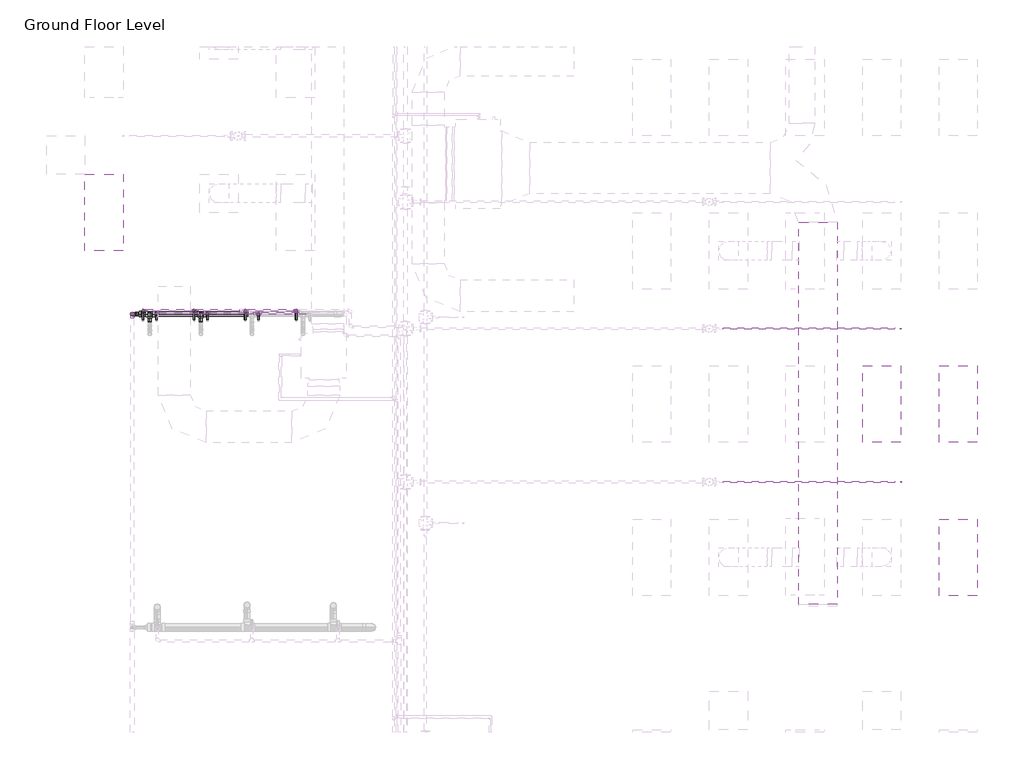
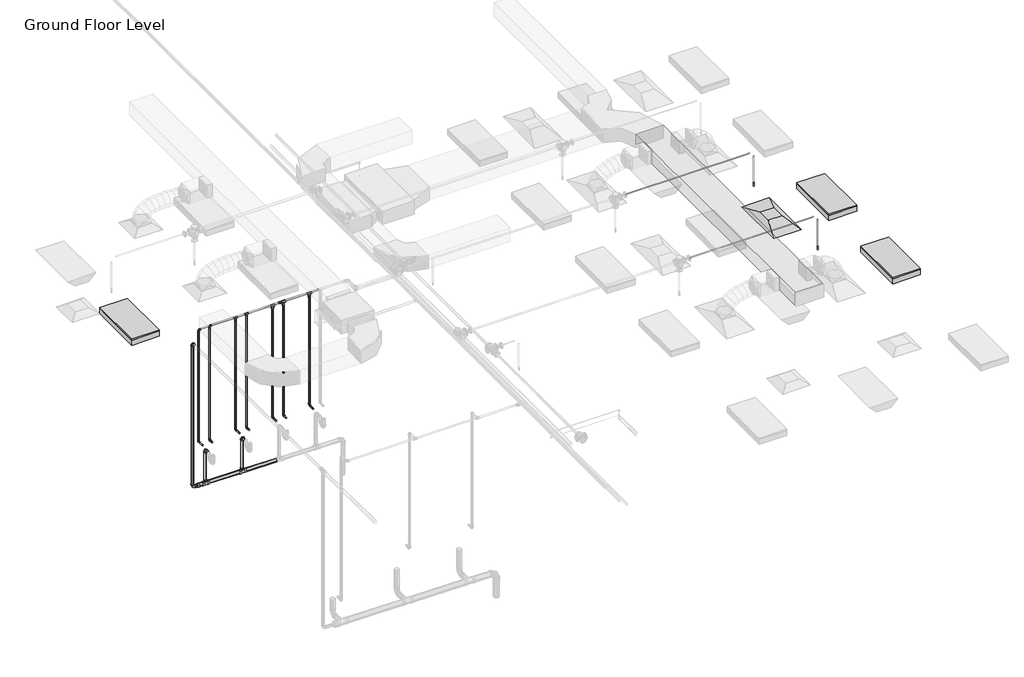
# One storey, part 24 of 75: 33 pipe segments, 25 pipe fittings, 3 light fixtures, 2 fire suppression terminals, 1 air terminal, 1 duct segment.
"""IFC4 building model written with IfcOpenShell, lengths in millimetres."""

from ifc_helpers import new_model, si_unit, point, frame, frame_2d, origin, place, context, project, spatial, polyline, circle_curve, trimmed, segment, composite_curve, outline, extrude, transform, mapped, element, save
from components import m_return_diffuser_1200x600_1200_x_600_face_300_x_300_d1983ef6, m_sprinkler_dry_pendent_hosted_15_mm_dry_pendent_9bda8e11, m_troffer_light_parabolic_rectangular1_0600x1200mm_4_lamp_86473d4a, m_bend_pvc_sch_40_dwv_standard_1e7bdcc1, m_bend_pvc_sch_40_dwv_standard_b3f66ba9, m_bend_pvc_sch_40_dwv_standard_8255d195, m_reducer_pvc_sch_40_dwv_standard_391ccf0e, m_tee_reducing_sanitary_pvc_sch_40_dwv_standard_21d2848c, standard_b266ab3f, standard_72b35c3b, standard_e954f56a, standard_636910a4

model = new_model("IFC4")

# Units and contexts
model_context = context("Model", 3, world=origin())
ifc_project = project(units=[si_unit("LENGTHUNIT", "METRE", prefix="MILLI")], contexts=[model_context])

# Site, building, storey
site = spatial("IfcSite", under=ifc_project)
building = spatial("IfcBuilding", under=site)
storey = spatial("IfcBuildingStorey", under=building, Name="Ground Floor Level", Elevation=900.0)

# Air terminal
placement = place(None, origin())
m_return_diffuser_1200x600_1200_x_600_face_300_x_300_shape = m_return_diffuser_1200x600_1200_x_600_face_300_x_300_d1983ef6(model_context)
element("IfcAirTerminal", 1, ObjectType="M_Return Diffuser 1200x600 : 1200 x 600 Face 300 x 300 Connection", at=placement, inside=storey, context=model_context, shape_type="MappedRepresentation", body=[
    mapped(m_return_diffuser_1200x600_1200_x_600_face_300_x_300_shape, transform((13143.0482736, -25264.7846466, 3650.0), x_axis=(0.0, 1.0, 0.0), y_axis=(-1.0, 0.0, 0.0), z_axis=(0.0, 0.0, 1.0))),
])

# Duct segment
element("IfcDuctSegment", 2, ObjectType="Radius Elbows / Taps", at=placement, inside=storey, context=model_context, shape_type="SweptSolid", body=[
    extrude(outline(polyline([(12447.7826463, -28403.2846466), (11847.7826463, -28403.2846466), (11847.7826463, -22416.5689179), (12447.7826463, -22416.5689179), (12447.7826463, -28403.2846466)])), frame((0.0, 0.0, 4000.0002153), z_axis=(0.0, 0.0, 1.0), x_axis=(1.0, 0.0, 0.0)), (0.0, 0.0, 1.0), 300.0),
])

# Fire suppression terminals
m_sprinkler_dry_pendent_hosted_15_mm_dry_pendent_shape = m_sprinkler_dry_pendent_hosted_15_mm_dry_pendent_9bda8e11(model_context)
element("IfcFireSuppressionTerminal", 3, ObjectType="M_Sprinkler - Dry - Pendent - Hosted : 15 mm Dry Pendent", at=placement, inside=storey, context=model_context, shape_type="MappedRepresentation", body=[
    mapped(m_sprinkler_dry_pendent_hosted_15_mm_dry_pendent_shape, transform((13443.0482736, -24083.6779349, 3650.0), x_axis=(1.0, 0.0, 0.0), y_axis=(0.0, -1.0, 0.0), z_axis=(0.0, 0.0, -1.0))),
])
element("IfcFireSuppressionTerminal", 4, ObjectType="M_Sprinkler - Dry - Pendent - Hosted : 15 mm Dry Pendent", at=placement, inside=storey, context=model_context, shape_type="MappedRepresentation", body=[
    mapped(m_sprinkler_dry_pendent_hosted_15_mm_dry_pendent_shape, transform((13443.0482736, -26484.6295433, 3650.0), x_axis=(1.0, 0.0, 0.0), y_axis=(0.0, -1.0, 0.0), z_axis=(0.0, 0.0, -1.0))),
])

# Light fixtures
m_troffer_light_parabolic_rectangular1_0600x1200mm_4_lamp_shape = m_troffer_light_parabolic_rectangular1_0600x1200mm_4_lamp_86473d4a(model_context)
element("IfcLightFixture", 5, ObjectType="M_Troffer Light - Parabolic Rectangular1 : 0600x1200mm(4 Lamp) - 277V 2", at=placement, inside=storey, context=model_context, shape_type="MappedRepresentation", body=[
    mapped(m_troffer_light_parabolic_rectangular1_0600x1200mm_4_lamp_shape, transform((903.3013074, -22246.081145, 3650.0), x_axis=(0.0, 1.0, 0.0), y_axis=(-1.0, 0.0, 0.0), z_axis=(0.0, 0.0, 1.0))),
])
element("IfcLightFixture", 6, ObjectType="M_Troffer Light - Parabolic Rectangular1 : 0600x1200mm(4 Lamp) - 277V 2", at=placement, inside=storey, context=model_context, shape_type="MappedRepresentation", body=[
    mapped(m_troffer_light_parabolic_rectangular1_0600x1200mm_4_lamp_shape, transform((14283.5823415, -25246.081145, 3650.0), x_axis=(0.0, 1.0, 0.0), y_axis=(-1.0, 0.0, 0.0), z_axis=(0.0, 0.0, 1.0))),
])
element("IfcLightFixture", 7, ObjectType="M_Troffer Light - Parabolic Rectangular1 : 0600x1200mm(4 Lamp) - 277V 2", at=placement, inside=storey, context=model_context, shape_type="MappedRepresentation", body=[
    mapped(m_troffer_light_parabolic_rectangular1_0600x1200mm_4_lamp_shape, transform((14283.5823415, -27646.081145, 3650.0), x_axis=(0.0, 1.0, 0.0), y_axis=(-1.0, 0.0, 0.0), z_axis=(0.0, 0.0, 1.0))),
])

# Pipe fittings
m_bend_pvc_sch_40_dwv_standard_shape = m_bend_pvc_sch_40_dwv_standard_1e7bdcc1(model_context)
element("IfcPipeFitting", 8, ObjectType="M_Bend - PVC - Sch 40 - DWV : Standard", at=placement, inside=storey, context=model_context, shape_type="MappedRepresentation", body=[
    mapped(m_bend_pvc_sch_40_dwv_standard_shape, transform((2479.14976, -23854.2948449, 1508.2594199), x_axis=(0.0, 0.9999500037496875, -0.00999950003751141), y_axis=(0.0, -0.00999950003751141, -0.9999500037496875), z_axis=(-1.0, 0.0, 0.0))),
])
element("IfcPipeFitting", 9, ObjectType="M_Bend - PVC - Sch 40 - DWV : Standard", at=placement, inside=storey, context=model_context, shape_type="MappedRepresentation", body=[
    mapped(m_bend_pvc_sch_40_dwv_standard_shape, transform((1404.8669708, -23854.2948449, 739.8083289), x_axis=(-0.9999500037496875, 0.0, 0.009999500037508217), y_axis=(0.009999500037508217, 0.0, 0.9999500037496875), z_axis=(0.0, 1.0, 0.0))),
])
m_bend_pvc_sch_40_dwv_standard_2_shape = m_bend_pvc_sch_40_dwv_standard_b3f66ba9(model_context)
element("IfcPipeFitting", 10, ObjectType="M_Bend - PVC - Sch 40 - DWV : Standard", at=placement, inside=storey, context=model_context, shape_type="MappedRepresentation", body=[
    mapped(m_bend_pvc_sch_40_dwv_standard_2_shape, transform((1679.14976, -23854.2948449, 1508.2594199), x_axis=(0.0, 0.9999578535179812, -0.009181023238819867), y_axis=(0.0, -0.009181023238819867, -0.9999578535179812), z_axis=(-1.0, 0.0, 0.0))),
])
m_bend_pvc_sch_40_dwv_standard_3_shape = m_bend_pvc_sch_40_dwv_standard_8255d195(model_context)
element("IfcPipeFitting", 11, ObjectType="M_Bend - PVC - Sch 40 - DWV : Standard", at=placement, inside=storey, context=model_context, shape_type="MappedRepresentation", body=[
    mapped(m_bend_pvc_sch_40_dwv_standard_3_shape, transform((1404.8829692, -23854.3136394, 4037.9287036), x_axis=(0.0, 0.0, 1.0), y_axis=(0.0, -1.0, 0.0), z_axis=(1.0, 0.0, 0.0))),
])
m_reducer_pvc_sch_40_dwv_standard_shape = m_reducer_pvc_sch_40_dwv_standard_391ccf0e(model_context)
element("IfcPipeFitting", 12, ObjectType="M_Reducer - PVC - Sch 40 - DWV : Standard", at=placement, inside=storey, context=model_context, shape_type="MappedRepresentation", body=[
    mapped(m_reducer_pvc_sch_40_dwv_standard_shape, transform((1477.4242491, -23854.2948449, 739.0827561), x_axis=(0.9999500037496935, 0.0, -0.00999950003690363), y_axis=(0.0, 1.0, 0.0), z_axis=(0.00999950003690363, 0.0, 0.9999500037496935))),
])
m_tee_reducing_sanitary_pvc_sch_40_dwv_standard_shape = m_tee_reducing_sanitary_pvc_sch_40_dwv_standard_21d2848c(model_context)
element("IfcPipeFitting", 13, ObjectType="M_Tee Reducing Sanitary - PVC - Sch 40 - DWV : Standard", at=placement, inside=storey, context=model_context, shape_type="MappedRepresentation", body=[
    mapped(m_tee_reducing_sanitary_pvc_sch_40_dwv_standard_shape, transform((1679.3782372, -23854.2948449, 737.0632162), x_axis=(-0.9999500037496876, 0.0, 0.009999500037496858), y_axis=(-0.009999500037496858, 0.0, -0.9999500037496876), z_axis=(0.0, -1.0, 0.0))),
])
element("IfcPipeFitting", 14, ObjectType="M_Tee Reducing Sanitary - PVC - Sch 40 - DWV : Standard", at=placement, inside=storey, context=model_context, shape_type="MappedRepresentation", body=[
    mapped(m_tee_reducing_sanitary_pvc_sch_40_dwv_standard_shape, transform((2479.3782372, -23854.2948449, 729.0632162), x_axis=(-0.9999500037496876, 0.0, 0.009999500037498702), y_axis=(-0.009999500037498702, 0.0, -0.9999500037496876), z_axis=(0.0, -1.0, 0.0))),
])
standard_shape = standard_b266ab3f(model_context)
element("IfcPipeFitting", 15, ObjectType="M_Elbow - CPVC - Sch 40 : Standard", at=placement, inside=storey, context=model_context, shape_type="MappedRepresentation", body=[
    mapped(standard_shape, transform((1783.0647206, -23844.7846466, 1690.0), x_axis=(0.0, 0.0, -1.0), y_axis=(0.0, -1.0, 0.0), z_axis=(-1.0, 0.0, 0.0))),
])
element("IfcPipeFitting", 16, ObjectType="M_Elbow - CPVC - Sch 40 : Standard", at=placement, inside=storey, context=model_context, shape_type="MappedRepresentation", body=[
    mapped(standard_shape, transform((2583.0647206, -23844.7846466, 1690.0), x_axis=(0.0, 0.0, -1.0), y_axis=(0.0, -1.0, 0.0), z_axis=(-1.0, 0.0, 0.0))),
])
element("IfcPipeFitting", 17, ObjectType="M_Elbow - CPVC - Sch 40 : Standard", at=placement, inside=storey, context=model_context, shape_type="MappedRepresentation", body=[
    mapped(standard_shape, transform((3383.0647206, -23844.7846466, 1690.0), x_axis=(0.0, 0.0, -1.0), y_axis=(0.0, -1.0, 0.0), z_axis=(-1.0, 0.0, 0.0))),
])
element("IfcPipeFitting", 18, ObjectType="M_Elbow - CPVC - Sch 40 : Standard", at=placement, inside=storey, context=model_context, shape_type="MappedRepresentation", body=[
    mapped(standard_shape, transform((1783.0647206, -23844.7846466, 4300.0), x_axis=(-1.0, 0.0, 0.0), y_axis=(0.0, 0.0, -1.0), z_axis=(0.0, -1.0, 0.0))),
])
element("IfcPipeFitting", 19, ObjectType="M_Elbow - CPVC - Sch 40 : Standard", at=placement, inside=storey, context=model_context, shape_type="MappedRepresentation", body=[
    mapped(standard_shape, transform((1574.4348794, -23794.921633, 1690.0), x_axis=(0.0, 1.0, 0.0), y_axis=(0.0, 0.0, 1.0), z_axis=(1.0, 0.0, 0.0))),
])
element("IfcPipeFitting", 20, ObjectType="M_Elbow - CPVC - Sch 40 : Standard", at=placement, inside=storey, context=model_context, shape_type="MappedRepresentation", body=[
    mapped(standard_shape, transform((1574.4348794, -23794.921633, 4250.0), x_axis=(0.0, 0.0, 1.0), y_axis=(1.0, 0.0, 0.0), z_axis=(0.0, 1.0, 0.0))),
])
element("IfcPipeFitting", 21, ObjectType="M_Elbow - CPVC - Sch 40 : Standard", at=placement, inside=storey, context=model_context, shape_type="MappedRepresentation", body=[
    mapped(standard_shape, transform((2374.4348794, -23794.921633, 1690.0), x_axis=(0.0, 1.0, 0.0), y_axis=(0.0, 0.0, 1.0), z_axis=(1.0, 0.0, 0.0))),
])
element("IfcPipeFitting", 22, ObjectType="M_Elbow - CPVC - Sch 40 : Standard", at=placement, inside=storey, context=model_context, shape_type="MappedRepresentation", body=[
    mapped(standard_shape, transform((3174.4348794, -23794.921633, 1690.0), x_axis=(0.0, 1.0, 0.0), y_axis=(0.0, 0.0, 1.0), z_axis=(1.0, 0.0, 0.0))),
])
element("IfcPipeFitting", 23, ObjectType="M_Elbow - CPVC - Sch 40 : Standard", at=placement, inside=storey, context=model_context, shape_type="MappedRepresentation", body=[
    mapped(standard_shape, transform((3974.4348794, -23794.921633, 1690.0), x_axis=(0.0, 1.0, 0.0), y_axis=(0.0, 0.0, 1.0), z_axis=(1.0, 0.0, 0.0))),
])
standard_2_shape = standard_72b35c3b(model_context)
element("IfcPipeFitting", 24, ObjectType="M_Tee - CPVC - Sch 40 : Standard", at=placement, inside=storey, context=model_context, shape_type="MappedRepresentation", body=[
    mapped(standard_2_shape, transform((3383.0647206, -23844.7846466, 4300.0), x_axis=(1.0, 0.0, 0.0), y_axis=(0.0, 0.0, 1.0), z_axis=(0.0, -1.0, 0.0))),
])
element("IfcPipeFitting", 25, ObjectType="M_Tee - CPVC - Sch 40 : Standard", at=placement, inside=storey, context=model_context, shape_type="MappedRepresentation", body=[
    mapped(standard_2_shape, transform((3174.4348794, -23794.921633, 4250.0), x_axis=(-1.0, 0.0, 0.0), y_axis=(0.0, 0.0, 1.0), z_axis=(0.0, 1.0, 0.0))),
])
element("IfcPipeFitting", 26, ObjectType="M_Tee - CPVC - Sch 40 : Standard", at=placement, inside=storey, context=model_context, shape_type="MappedRepresentation", body=[
    mapped(standard_2_shape, transform((3974.4348794, -23794.921633, 4250.0), x_axis=(-1.0, 0.0, 0.0), y_axis=(0.0, 0.0, 1.0), z_axis=(0.0, 1.0, 0.0))),
])
standard_3_shape = standard_e954f56a(model_context)
element("IfcPipeFitting", 27, ObjectType="M_Coupling Reducing - CPVC - Sch 40 : Standard", at=placement, inside=storey, context=model_context, shape_type="MappedRepresentation", body=[
    mapped(standard_3_shape, transform((3343.3645206, -23844.7846466, 4300.0), x_axis=(-1.0, 0.0, 0.0), y_axis=(0.0, -1.0, 0.0), z_axis=(0.0, 0.0, 1.0))),
])
element("IfcPipeFitting", 28, ObjectType="M_Coupling Reducing - CPVC - Sch 40 : Standard", at=placement, inside=storey, context=model_context, shape_type="MappedRepresentation", body=[
    mapped(standard_3_shape, transform((3383.0647206, -23844.7846466, 4260.2998), x_axis=(0.0, 0.0, -1.0), y_axis=(1.0, 0.0, 0.0), z_axis=(0.0, -1.0, 0.0))),
])
element("IfcPipeFitting", 29, ObjectType="M_Coupling Reducing - CPVC - Sch 40 : Standard", at=placement, inside=storey, context=model_context, shape_type="MappedRepresentation", body=[
    mapped(standard_3_shape, transform((3174.4348794, -23794.921633, 4210.2998), x_axis=(0.0, 0.0, -1.0), y_axis=(-1.0, 0.0, 0.0), z_axis=(0.0, 1.0, 0.0))),
])
element("IfcPipeFitting", 30, ObjectType="M_Coupling Reducing - CPVC - Sch 40 : Standard", at=placement, inside=storey, context=model_context, shape_type="MappedRepresentation", body=[
    mapped(standard_3_shape, transform((3974.4348794, -23794.921633, 4210.2998), x_axis=(0.0, 0.0, -1.0), y_axis=(-1.0, 0.0, 0.0), z_axis=(0.0, 1.0, 0.0))),
])
standard_4_shape = standard_636910a4(model_context)
element("IfcPipeFitting", 31, ObjectType="M_Tee - CPVC - Sch 40 : Standard", at=placement, inside=storey, context=model_context, shape_type="MappedRepresentation", body=[
    mapped(standard_4_shape, transform((2583.0647206, -23844.7846466, 4300.0), x_axis=(1.0, 0.0, 0.0), y_axis=(0.0, 0.0, 1.0), z_axis=(0.0, -1.0, 0.0))),
])
element("IfcPipeFitting", 32, ObjectType="M_Tee - CPVC - Sch 40 : Standard", at=placement, inside=storey, context=model_context, shape_type="MappedRepresentation", body=[
    mapped(standard_4_shape, transform((2374.4348794, -23794.921633, 4250.0), x_axis=(-1.0, 0.0, 0.0), y_axis=(0.0, 0.0, 1.0), z_axis=(0.0, 1.0, 0.0))),
])

# Pipe segments
element("IfcPipeSegment", 33, ObjectType="CPVC", at=placement, inside=storey, context=model_context, shape_type="SweptSolid", body=[
    extrude(outline(composite_curve([segment(trimmed(circle_curve(frame_2d((1690.0, 3383.0647206)), 13.335), [point((1690.0, 3396.3997206))], [point((1703.335, 3383.0647206))], False, "CARTESIAN"), True, "CONTINUOUS"), segment(trimmed(circle_curve(frame_2d((1690.0, 3383.0647206)), 13.335), [point((1703.335, 3383.0647206))], [point((1690.0, 3369.7297206))], False, "CARTESIAN"), True, "CONTINUOUS"), segment(trimmed(circle_curve(frame_2d((1690.0, 3383.0647206)), 13.335), [point((1690.0, 3369.7297206))], [point((1676.665, 3383.0647206))], False, "CARTESIAN"), True, "CONTINUOUS"), segment(trimmed(circle_curve(frame_2d((1690.0, 3383.0647206)), 13.335), [point((1676.665, 3383.0647206))], [point((1690.0, 3396.3997206))], False, "CARTESIAN"), True, "CONTINUOUS")], self_intersect=False)), frame((0.0, -23944.7846466, 0.0), z_axis=(0.0, 1.0, 0.0), x_axis=(0.0, 0.0, 1.0)), (0.0, 0.0, 1.0), 64.67495),
])
element("IfcPipeSegment", 34, ObjectType="CPVC", at=placement, inside=storey, context=model_context, shape_type="SweptSolid", body=[
    extrude(outline(composite_curve([segment(trimmed(circle_curve(frame_2d((1690.0, 2583.0647206)), 13.335), [point((1690.0, 2596.3997206))], [point((1703.335, 2583.0647206))], False, "CARTESIAN"), True, "CONTINUOUS"), segment(trimmed(circle_curve(frame_2d((1690.0, 2583.0647206)), 13.335), [point((1703.335, 2583.0647206))], [point((1690.0, 2569.7297206))], False, "CARTESIAN"), True, "CONTINUOUS"), segment(trimmed(circle_curve(frame_2d((1690.0, 2583.0647206)), 13.335), [point((1690.0, 2569.7297206))], [point((1676.665, 2583.0647206))], False, "CARTESIAN"), True, "CONTINUOUS"), segment(trimmed(circle_curve(frame_2d((1690.0, 2583.0647206)), 13.335), [point((1676.665, 2583.0647206))], [point((1690.0, 2596.3997206))], False, "CARTESIAN"), True, "CONTINUOUS")], self_intersect=False)), frame((0.0, -23944.7846466, 0.0), z_axis=(0.0, 1.0, 0.0), x_axis=(0.0, 0.0, 1.0)), (0.0, 0.0, 1.0), 64.67495),
])
element("IfcPipeSegment", 35, ObjectType="CPVC", at=placement, inside=storey, context=model_context, shape_type="SweptSolid", body=[
    extrude(outline(composite_curve([segment(trimmed(circle_curve(frame_2d((1690.0, 1783.0647206)), 13.335), [point((1690.0, 1796.3997206))], [point((1703.335, 1783.0647206))], False, "CARTESIAN"), True, "CONTINUOUS"), segment(trimmed(circle_curve(frame_2d((1690.0, 1783.0647206)), 13.335), [point((1703.335, 1783.0647206))], [point((1690.0, 1769.7297206))], False, "CARTESIAN"), True, "CONTINUOUS"), segment(trimmed(circle_curve(frame_2d((1690.0, 1783.0647206)), 13.335), [point((1690.0, 1769.7297206))], [point((1676.665, 1783.0647206))], False, "CARTESIAN"), True, "CONTINUOUS"), segment(trimmed(circle_curve(frame_2d((1690.0, 1783.0647206)), 13.335), [point((1676.665, 1783.0647206))], [point((1690.0, 1796.3997206))], False, "CARTESIAN"), True, "CONTINUOUS")], self_intersect=False)), frame((0.0, -23944.7846466, 0.0), z_axis=(0.0, 1.0, 0.0), x_axis=(0.0, 0.0, 1.0)), (0.0, 0.0, 1.0), 64.67495),
])
element("IfcPipeSegment", 36, ObjectType="CPVC", at=placement, inside=storey, context=model_context, shape_type="SweptSolid", body=[
    extrude(outline(composite_curve([segment(trimmed(circle_curve(frame_2d((1783.0647206, -23844.7846466)), 13.335), [point((1796.3997206, -23844.7846466))], [point((1783.0647206, -23858.1196466))], False, "CARTESIAN"), True, "CONTINUOUS"), segment(trimmed(circle_curve(frame_2d((1783.0647206, -23844.7846466)), 13.335), [point((1783.0647206, -23858.1196466))], [point((1769.7297206, -23844.7846466))], False, "CARTESIAN"), True, "CONTINUOUS"), segment(trimmed(circle_curve(frame_2d((1783.0647206, -23844.7846466)), 13.335), [point((1769.7297206, -23844.7846466))], [point((1783.0647206, -23831.4496466))], False, "CARTESIAN"), True, "CONTINUOUS"), segment(trimmed(circle_curve(frame_2d((1783.0647206, -23844.7846466)), 13.335), [point((1783.0647206, -23831.4496466))], [point((1796.3997206, -23844.7846466))], False, "CARTESIAN"), True, "CONTINUOUS")], self_intersect=False)), frame((0.0, 0.0, 1725.32505), z_axis=(0.0, 0.0, 1.0), x_axis=(1.0, 0.0, 0.0)), (0.0, 0.0, 1.0), 2539.3499),
])
element("IfcPipeSegment", 37, ObjectType="CPVC", at=placement, inside=storey, context=model_context, shape_type="SweptSolid", body=[
    extrude(outline(composite_curve([segment(trimmed(circle_curve(frame_2d((-23844.7846466, 4300.0)), 13.335), [point((-23831.4496466, 4300.0))], [point((-23844.7846466, 4286.665))], False, "CARTESIAN"), True, "CONTINUOUS"), segment(trimmed(circle_curve(frame_2d((-23844.7846466, 4300.0)), 13.335), [point((-23844.7846466, 4286.665))], [point((-23858.1196466, 4300.0))], False, "CARTESIAN"), True, "CONTINUOUS"), segment(trimmed(circle_curve(frame_2d((-23844.7846466, 4300.0)), 13.335), [point((-23858.1196466, 4300.0))], [point((-23844.7846466, 4313.335))], False, "CARTESIAN"), True, "CONTINUOUS"), segment(trimmed(circle_curve(frame_2d((-23844.7846466, 4300.0)), 13.335), [point((-23844.7846466, 4313.335))], [point((-23831.4496466, 4300.0))], False, "CARTESIAN"), True, "CONTINUOUS")], self_intersect=False)), frame((1818.3897706, 0.0, 0.0), z_axis=(1.0, 0.0, 0.0), x_axis=(0.0, 1.0, 0.0)), (0.0, 0.0, 1.0), 732.13755),
])
element("IfcPipeSegment", 38, ObjectType="CPVC", at=placement, inside=storey, context=model_context, shape_type="SweptSolid", body=[
    extrude(outline(composite_curve([segment(trimmed(circle_curve(frame_2d((2583.0647206, -23844.7846466)), 13.335), [point((2596.3997206, -23844.7846466))], [point((2583.0647206, -23858.1196466))], False, "CARTESIAN"), True, "CONTINUOUS"), segment(trimmed(circle_curve(frame_2d((2583.0647206, -23844.7846466)), 13.335), [point((2583.0647206, -23858.1196466))], [point((2569.7297206, -23844.7846466))], False, "CARTESIAN"), True, "CONTINUOUS"), segment(trimmed(circle_curve(frame_2d((2583.0647206, -23844.7846466)), 13.335), [point((2569.7297206, -23844.7846466))], [point((2583.0647206, -23831.4496466))], False, "CARTESIAN"), True, "CONTINUOUS"), segment(trimmed(circle_curve(frame_2d((2583.0647206, -23844.7846466)), 13.335), [point((2583.0647206, -23831.4496466))], [point((2596.3997206, -23844.7846466))], False, "CARTESIAN"), True, "CONTINUOUS")], self_intersect=False)), frame((0.0, 0.0, 1725.32505), z_axis=(0.0, 0.0, 1.0), x_axis=(1.0, 0.0, 0.0)), (0.0, 0.0, 1.0), 2542.13755),
])
element("IfcPipeSegment", 39, ObjectType="CPVC", at=placement, inside=storey, context=model_context, shape_type="SweptSolid", body=[
    extrude(outline(composite_curve([segment(trimmed(circle_curve(frame_2d((-23844.7846466, 4300.0)), 13.335), [point((-23831.4496466, 4300.0))], [point((-23844.7846466, 4286.665))], False, "CARTESIAN"), True, "CONTINUOUS"), segment(trimmed(circle_curve(frame_2d((-23844.7846466, 4300.0)), 13.335), [point((-23844.7846466, 4286.665))], [point((-23858.1196466, 4300.0))], False, "CARTESIAN"), True, "CONTINUOUS"), segment(trimmed(circle_curve(frame_2d((-23844.7846466, 4300.0)), 13.335), [point((-23858.1196466, 4300.0))], [point((-23844.7846466, 4313.335))], False, "CARTESIAN"), True, "CONTINUOUS"), segment(trimmed(circle_curve(frame_2d((-23844.7846466, 4300.0)), 13.335), [point((-23844.7846466, 4313.335))], [point((-23831.4496466, 4300.0))], False, "CARTESIAN"), True, "CONTINUOUS")], self_intersect=False)), frame((2615.6021206, 0.0, 0.0), z_axis=(1.0, 0.0, 0.0), x_axis=(0.0, 1.0, 0.0)), (0.0, 0.0, 1.0), 670.6124),
])
element("IfcPipeSegment", 40, ObjectType="CPVC", at=placement, inside=storey, context=model_context, shape_type="SweptSolid", body=[
    extrude(outline(composite_curve([segment(trimmed(circle_curve(frame_2d((3383.0647206, -23844.7846466)), 13.335), [point((3396.3997206, -23844.7846466))], [point((3383.0647206, -23858.1196466))], False, "CARTESIAN"), True, "CONTINUOUS"), segment(trimmed(circle_curve(frame_2d((3383.0647206, -23844.7846466)), 13.335), [point((3383.0647206, -23858.1196466))], [point((3369.7297206, -23844.7846466))], False, "CARTESIAN"), True, "CONTINUOUS"), segment(trimmed(circle_curve(frame_2d((3383.0647206, -23844.7846466)), 13.335), [point((3369.7297206, -23844.7846466))], [point((3383.0647206, -23831.4496466))], False, "CARTESIAN"), True, "CONTINUOUS"), segment(trimmed(circle_curve(frame_2d((3383.0647206, -23844.7846466)), 13.335), [point((3383.0647206, -23831.4496466))], [point((3396.3997206, -23844.7846466))], False, "CARTESIAN"), True, "CONTINUOUS")], self_intersect=False)), frame((0.0, 0.0, 1725.32505), z_axis=(0.0, 0.0, 1.0), x_axis=(1.0, 0.0, 0.0)), (0.0, 0.0, 1.0), 2477.82475),
])
element("IfcPipeSegment", 41, ObjectType="CPVC", at=placement, inside=storey, context=model_context, shape_type="SweptSolid", body=[
    extrude(outline(composite_curve([segment(trimmed(circle_curve(frame_2d((-23844.7846466, 4300.0)), 16.7005), [point((-23828.0841466, 4300.0))], [point((-23844.7846466, 4283.2995))], False, "CARTESIAN"), True, "CONTINUOUS"), segment(trimmed(circle_curve(frame_2d((-23844.7846466, 4300.0)), 16.7005), [point((-23844.7846466, 4283.2995))], [point((-23861.4851466, 4300.0))], False, "CARTESIAN"), True, "CONTINUOUS"), segment(trimmed(circle_curve(frame_2d((-23844.7846466, 4300.0)), 16.7005), [point((-23861.4851466, 4300.0))], [point((-23844.7846466, 4316.7005))], False, "CARTESIAN"), True, "CONTINUOUS"), segment(trimmed(circle_curve(frame_2d((-23844.7846466, 4300.0)), 16.7005), [point((-23844.7846466, 4316.7005))], [point((-23828.0841466, 4300.0))], False, "CARTESIAN"), True, "CONTINUOUS")], self_intersect=False)), frame((3422.7649206, 0.0, 0.0), z_axis=(1.0, 0.0, 0.0), x_axis=(0.0, 1.0, 0.0)), (0.0, 0.0, 1.0), 720.5996),
])
element("IfcPipeSegment", 42, ObjectType="CPVC", at=placement, inside=storey, context=model_context, shape_type="SweptSolid", body=[
    extrude(outline(composite_curve([segment(trimmed(circle_curve(frame_2d((1690.0, 1574.4348794)), 13.335), [point((1690.0, 1587.7698794))], [point((1703.335, 1574.4348794))], False, "CARTESIAN"), True, "CONTINUOUS"), segment(trimmed(circle_curve(frame_2d((1690.0, 1574.4348794)), 13.335), [point((1703.335, 1574.4348794))], [point((1690.0, 1561.0998794))], False, "CARTESIAN"), True, "CONTINUOUS"), segment(trimmed(circle_curve(frame_2d((1690.0, 1574.4348794)), 13.335), [point((1690.0, 1561.0998794))], [point((1676.665, 1574.4348794))], False, "CARTESIAN"), True, "CONTINUOUS"), segment(trimmed(circle_curve(frame_2d((1690.0, 1574.4348794)), 13.335), [point((1676.665, 1574.4348794))], [point((1690.0, 1587.7698794))], False, "CARTESIAN"), True, "CONTINUOUS")], self_intersect=False)), frame((0.0, -23944.7846466, 0.0), z_axis=(0.0, 1.0, 0.0), x_axis=(0.0, 0.0, 1.0)), (0.0, 0.0, 1.0), 114.5379636),
])
element("IfcPipeSegment", 43, ObjectType="CPVC", at=placement, inside=storey, context=model_context, shape_type="SweptSolid", body=[
    extrude(outline(composite_curve([segment(trimmed(circle_curve(frame_2d((1574.4348794, -23794.921633)), 13.335), [point((1561.0998794, -23794.921633))], [point((1574.4348794, -23781.586633))], False, "CARTESIAN"), True, "CONTINUOUS"), segment(trimmed(circle_curve(frame_2d((1574.4348794, -23794.921633)), 13.335), [point((1574.4348794, -23781.586633))], [point((1587.7698794, -23794.921633))], False, "CARTESIAN"), True, "CONTINUOUS"), segment(trimmed(circle_curve(frame_2d((1574.4348794, -23794.921633)), 13.335), [point((1587.7698794, -23794.921633))], [point((1574.4348794, -23808.256633))], False, "CARTESIAN"), True, "CONTINUOUS"), segment(trimmed(circle_curve(frame_2d((1574.4348794, -23794.921633)), 13.335), [point((1574.4348794, -23808.256633))], [point((1561.0998794, -23794.921633))], False, "CARTESIAN"), True, "CONTINUOUS")], self_intersect=False)), frame((0.0, 0.0, 1725.32505), z_axis=(0.0, 0.0, 1.0), x_axis=(1.0, 0.0, 0.0)), (0.0, 0.0, 1.0), 2489.3499),
])
element("IfcPipeSegment", 44, ObjectType="CPVC", at=placement, inside=storey, context=model_context, shape_type="SweptSolid", body=[
    extrude(outline(composite_curve([segment(trimmed(circle_curve(frame_2d((1690.0, 2374.4348794)), 13.335), [point((1690.0, 2387.7698794))], [point((1703.335, 2374.4348794))], False, "CARTESIAN"), True, "CONTINUOUS"), segment(trimmed(circle_curve(frame_2d((1690.0, 2374.4348794)), 13.335), [point((1703.335, 2374.4348794))], [point((1690.0, 2361.0998794))], False, "CARTESIAN"), True, "CONTINUOUS"), segment(trimmed(circle_curve(frame_2d((1690.0, 2374.4348794)), 13.335), [point((1690.0, 2361.0998794))], [point((1676.665, 2374.4348794))], False, "CARTESIAN"), True, "CONTINUOUS"), segment(trimmed(circle_curve(frame_2d((1690.0, 2374.4348794)), 13.335), [point((1676.665, 2374.4348794))], [point((1690.0, 2387.7698794))], False, "CARTESIAN"), True, "CONTINUOUS")], self_intersect=False)), frame((0.0, -23944.7846466, 0.0), z_axis=(0.0, 1.0, 0.0), x_axis=(0.0, 0.0, 1.0)), (0.0, 0.0, 1.0), 114.5379636),
])
element("IfcPipeSegment", 45, ObjectType="CPVC", at=placement, inside=storey, context=model_context, shape_type="SweptSolid", body=[
    extrude(outline(composite_curve([segment(trimmed(circle_curve(frame_2d((2374.4348794, -23794.921633)), 13.335), [point((2361.0998794, -23794.921633))], [point((2374.4348794, -23781.586633))], False, "CARTESIAN"), True, "CONTINUOUS"), segment(trimmed(circle_curve(frame_2d((2374.4348794, -23794.921633)), 13.335), [point((2374.4348794, -23781.586633))], [point((2387.7698794, -23794.921633))], False, "CARTESIAN"), True, "CONTINUOUS"), segment(trimmed(circle_curve(frame_2d((2374.4348794, -23794.921633)), 13.335), [point((2387.7698794, -23794.921633))], [point((2374.4348794, -23808.256633))], False, "CARTESIAN"), True, "CONTINUOUS"), segment(trimmed(circle_curve(frame_2d((2374.4348794, -23794.921633)), 13.335), [point((2374.4348794, -23808.256633))], [point((2361.0998794, -23794.921633))], False, "CARTESIAN"), True, "CONTINUOUS")], self_intersect=False)), frame((0.0, 0.0, 1725.32505), z_axis=(0.0, 0.0, 1.0), x_axis=(1.0, 0.0, 0.0)), (0.0, 0.0, 1.0), 2492.13755),
])
element("IfcPipeSegment", 46, ObjectType="CPVC", at=placement, inside=storey, context=model_context, shape_type="SweptSolid", body=[
    extrude(outline(composite_curve([segment(trimmed(circle_curve(frame_2d((-23794.921633, 4250.0)), 13.335), [point((-23808.256633, 4250.0))], [point((-23794.921633, 4263.335))], False, "CARTESIAN"), True, "CONTINUOUS"), segment(trimmed(circle_curve(frame_2d((-23794.921633, 4250.0)), 13.335), [point((-23794.921633, 4263.335))], [point((-23781.586633, 4250.0))], False, "CARTESIAN"), True, "CONTINUOUS"), segment(trimmed(circle_curve(frame_2d((-23794.921633, 4250.0)), 13.335), [point((-23781.586633, 4250.0))], [point((-23794.921633, 4236.665))], False, "CARTESIAN"), True, "CONTINUOUS"), segment(trimmed(circle_curve(frame_2d((-23794.921633, 4250.0)), 13.335), [point((-23794.921633, 4236.665))], [point((-23808.256633, 4250.0))], False, "CARTESIAN"), True, "CONTINUOUS")], self_intersect=False)), frame((1609.7599294, 0.0, 0.0), z_axis=(1.0, 0.0, 0.0), x_axis=(0.0, 1.0, 0.0)), (0.0, 0.0, 1.0), 732.13755),
])
element("IfcPipeSegment", 47, ObjectType="CPVC", at=placement, inside=storey, context=model_context, shape_type="SweptSolid", body=[
    extrude(outline(composite_curve([segment(trimmed(circle_curve(frame_2d((1690.0, 3174.4348794)), 13.335), [point((1690.0, 3187.7698794))], [point((1703.335, 3174.4348794))], False, "CARTESIAN"), True, "CONTINUOUS"), segment(trimmed(circle_curve(frame_2d((1690.0, 3174.4348794)), 13.335), [point((1703.335, 3174.4348794))], [point((1690.0, 3161.0998794))], False, "CARTESIAN"), True, "CONTINUOUS"), segment(trimmed(circle_curve(frame_2d((1690.0, 3174.4348794)), 13.335), [point((1690.0, 3161.0998794))], [point((1676.665, 3174.4348794))], False, "CARTESIAN"), True, "CONTINUOUS"), segment(trimmed(circle_curve(frame_2d((1690.0, 3174.4348794)), 13.335), [point((1676.665, 3174.4348794))], [point((1690.0, 3187.7698794))], False, "CARTESIAN"), True, "CONTINUOUS")], self_intersect=False)), frame((0.0, -23944.7846466, 0.0), z_axis=(0.0, 1.0, 0.0), x_axis=(0.0, 0.0, 1.0)), (0.0, 0.0, 1.0), 114.5379636),
])
element("IfcPipeSegment", 48, ObjectType="CPVC", at=placement, inside=storey, context=model_context, shape_type="SweptSolid", body=[
    extrude(outline(composite_curve([segment(trimmed(circle_curve(frame_2d((3174.4348794, -23794.921633)), 13.335), [point((3161.0998794, -23794.921633))], [point((3174.4348794, -23781.586633))], False, "CARTESIAN"), True, "CONTINUOUS"), segment(trimmed(circle_curve(frame_2d((3174.4348794, -23794.921633)), 13.335), [point((3174.4348794, -23781.586633))], [point((3187.7698794, -23794.921633))], False, "CARTESIAN"), True, "CONTINUOUS"), segment(trimmed(circle_curve(frame_2d((3174.4348794, -23794.921633)), 13.335), [point((3187.7698794, -23794.921633))], [point((3174.4348794, -23808.256633))], False, "CARTESIAN"), True, "CONTINUOUS"), segment(trimmed(circle_curve(frame_2d((3174.4348794, -23794.921633)), 13.335), [point((3174.4348794, -23808.256633))], [point((3161.0998794, -23794.921633))], False, "CARTESIAN"), True, "CONTINUOUS")], self_intersect=False)), frame((0.0, 0.0, 1725.32505), z_axis=(0.0, 0.0, 1.0), x_axis=(1.0, 0.0, 0.0)), (0.0, 0.0, 1.0), 2427.82475),
])
element("IfcPipeSegment", 49, ObjectType="CPVC", at=placement, inside=storey, context=model_context, shape_type="SweptSolid", body=[
    extrude(outline(composite_curve([segment(trimmed(circle_curve(frame_2d((-23794.921633, 4250.0)), 13.335), [point((-23808.256633, 4250.0))], [point((-23794.921633, 4263.335))], False, "CARTESIAN"), True, "CONTINUOUS"), segment(trimmed(circle_curve(frame_2d((-23794.921633, 4250.0)), 13.335), [point((-23794.921633, 4263.335))], [point((-23781.586633, 4250.0))], False, "CARTESIAN"), True, "CONTINUOUS"), segment(trimmed(circle_curve(frame_2d((-23794.921633, 4250.0)), 13.335), [point((-23781.586633, 4250.0))], [point((-23794.921633, 4236.665))], False, "CARTESIAN"), True, "CONTINUOUS"), segment(trimmed(circle_curve(frame_2d((-23794.921633, 4250.0)), 13.335), [point((-23794.921633, 4236.665))], [point((-23808.256633, 4250.0))], False, "CARTESIAN"), True, "CONTINUOUS")], self_intersect=False)), frame((2406.9722794, 0.0, 0.0), z_axis=(1.0, 0.0, 0.0), x_axis=(0.0, 1.0, 0.0)), (0.0, 0.0, 1.0), 670.6124),
])
element("IfcPipeSegment", 50, ObjectType="CPVC", at=placement, inside=storey, context=model_context, shape_type="SweptSolid", body=[
    extrude(outline(composite_curve([segment(trimmed(circle_curve(frame_2d((1690.0, 3974.4348794)), 13.335), [point((1690.0, 3987.7698794))], [point((1703.335, 3974.4348794))], False, "CARTESIAN"), True, "CONTINUOUS"), segment(trimmed(circle_curve(frame_2d((1690.0, 3974.4348794)), 13.335), [point((1703.335, 3974.4348794))], [point((1690.0, 3961.0998794))], False, "CARTESIAN"), True, "CONTINUOUS"), segment(trimmed(circle_curve(frame_2d((1690.0, 3974.4348794)), 13.335), [point((1690.0, 3961.0998794))], [point((1676.665, 3974.4348794))], False, "CARTESIAN"), True, "CONTINUOUS"), segment(trimmed(circle_curve(frame_2d((1690.0, 3974.4348794)), 13.335), [point((1676.665, 3974.4348794))], [point((1690.0, 3987.7698794))], False, "CARTESIAN"), True, "CONTINUOUS")], self_intersect=False)), frame((0.0, -23944.7846466, 0.0), z_axis=(0.0, 1.0, 0.0), x_axis=(0.0, 0.0, 1.0)), (0.0, 0.0, 1.0), 114.5379636),
])
element("IfcPipeSegment", 51, ObjectType="CPVC", at=placement, inside=storey, context=model_context, shape_type="SweptSolid", body=[
    extrude(outline(composite_curve([segment(trimmed(circle_curve(frame_2d((3974.4348794, -23794.921633)), 13.335), [point((3961.0998794, -23794.921633))], [point((3974.4348794, -23781.586633))], False, "CARTESIAN"), True, "CONTINUOUS"), segment(trimmed(circle_curve(frame_2d((3974.4348794, -23794.921633)), 13.335), [point((3974.4348794, -23781.586633))], [point((3987.7698794, -23794.921633))], False, "CARTESIAN"), True, "CONTINUOUS"), segment(trimmed(circle_curve(frame_2d((3974.4348794, -23794.921633)), 13.335), [point((3987.7698794, -23794.921633))], [point((3974.4348794, -23808.256633))], False, "CARTESIAN"), True, "CONTINUOUS"), segment(trimmed(circle_curve(frame_2d((3974.4348794, -23794.921633)), 13.335), [point((3974.4348794, -23808.256633))], [point((3961.0998794, -23794.921633))], False, "CARTESIAN"), True, "CONTINUOUS")], self_intersect=False)), frame((0.0, 0.0, 1725.32505), z_axis=(0.0, 0.0, 1.0), x_axis=(1.0, 0.0, 0.0)), (0.0, 0.0, 1.0), 2427.82475),
])
element("IfcPipeSegment", 52, ObjectType="CPVC", at=placement, inside=storey, context=model_context, shape_type="SweptSolid", body=[
    extrude(outline(composite_curve([segment(trimmed(circle_curve(frame_2d((-23794.921633, 4250.0)), 16.7005), [point((-23811.622133, 4250.0))], [point((-23794.921633, 4266.7005))], False, "CARTESIAN"), True, "CONTINUOUS"), segment(trimmed(circle_curve(frame_2d((-23794.921633, 4250.0)), 16.7005), [point((-23794.921633, 4266.7005))], [point((-23778.221133, 4250.0))], False, "CARTESIAN"), True, "CONTINUOUS"), segment(trimmed(circle_curve(frame_2d((-23794.921633, 4250.0)), 16.7005), [point((-23778.221133, 4250.0))], [point((-23794.921633, 4233.2995))], False, "CARTESIAN"), True, "CONTINUOUS"), segment(trimmed(circle_curve(frame_2d((-23794.921633, 4250.0)), 16.7005), [point((-23794.921633, 4233.2995))], [point((-23811.622133, 4250.0))], False, "CARTESIAN"), True, "CONTINUOUS")], self_intersect=False)), frame((3214.1350794, 0.0, 0.0), z_axis=(1.0, 0.0, 0.0), x_axis=(0.0, 1.0, 0.0)), (0.0, 0.0, 1.0), 720.5996),
])
element("IfcPipeSegment", 53, ObjectType="PVC - DWV", at=placement, inside=storey, context=model_context, shape_type="SweptSolid", body=[
    extrude(outline(composite_curve([segment(trimmed(circle_curve(frame_2d((0.0, -24.13)), 24.13), [point((24.13, -24.13))], [point((0.0, -48.26))], False, "CARTESIAN"), True, "CONTINUOUS"), segment(trimmed(circle_curve(frame_2d((0.0, -24.13)), 24.13), [point((0.0, -48.26))], [point((-24.13, -24.13))], False, "CARTESIAN"), True, "CONTINUOUS"), segment(trimmed(circle_curve(frame_2d((0.0, -24.13)), 24.13), [point((-24.13, -24.13))], [point((0.0, 0.0))], False, "CARTESIAN"), True, "CONTINUOUS"), segment(trimmed(circle_curve(frame_2d((0.0, -24.13)), 24.13), [point((0.0, 0.0))], [point((24.13, -24.13))], False, "CARTESIAN"), True, "CONTINUOUS")], self_intersect=False)), frame((1679.14976, -23915.9507481, 1532.956517), z_axis=(0.0, -0.9999500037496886, 0.0099995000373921), x_axis=(1.0, 0.0, 0.0)), (0.0, 0.0, 1.0), 60.2666363),
])
element("IfcPipeSegment", 54, ObjectType="PVC - DWV", at=placement, inside=storey, context=model_context, shape_type="SweptSolid", body=[
    extrude(outline(composite_curve([segment(trimmed(circle_curve(frame_2d((0.0, 24.13)), 24.13), [point((-24.13, 24.13))], [point((0.0, 48.26))], False, "CARTESIAN"), True, "CONTINUOUS"), segment(trimmed(circle_curve(frame_2d((0.0, 24.13)), 24.13), [point((0.0, 48.26))], [point((24.13, 24.13))], False, "CARTESIAN"), True, "CONTINUOUS"), segment(trimmed(circle_curve(frame_2d((0.0, 24.13)), 24.13), [point((24.13, 24.13))], [point((0.0, 0.0))], False, "CARTESIAN"), True, "CONTINUOUS"), segment(trimmed(circle_curve(frame_2d((0.0, 24.13)), 24.13), [point((0.0, 0.0))], [point((-24.13, 24.13))], False, "CARTESIAN"), True, "CONTINUOUS")], self_intersect=False)), frame((1679.3782372, -23878.4248449, 817.9106725), z_axis=(-4.5345211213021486e-05, 0.0, 0.999999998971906), x_axis=(0.999999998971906, 0.0, 4.5345211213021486e-05)), (0.0, 0.0, 1.0), 628.448948),
])
element("IfcPipeSegment", 55, ObjectType="PVC - DWV", at=placement, inside=storey, context=model_context, shape_type="SweptSolid", body=[
    extrude(outline(composite_curve([segment(trimmed(circle_curve(frame_2d((0.0, -24.13)), 24.13), [point((24.13, -24.13))], [point((0.0, -48.26))], False, "CARTESIAN"), True, "CONTINUOUS"), segment(trimmed(circle_curve(frame_2d((0.0, -24.13)), 24.13), [point((0.0, -48.26))], [point((-24.13, -24.13))], False, "CARTESIAN"), True, "CONTINUOUS"), segment(trimmed(circle_curve(frame_2d((0.0, -24.13)), 24.13), [point((-24.13, -24.13))], [point((0.0, 0.0))], False, "CARTESIAN"), True, "CONTINUOUS"), segment(trimmed(circle_curve(frame_2d((0.0, -24.13)), 24.13), [point((0.0, 0.0))], [point((24.13, -24.13))], False, "CARTESIAN"), True, "CONTINUOUS")], self_intersect=False)), frame((2479.14976, -23915.9502622, 1533.0071805), z_axis=(0.0, -0.9999500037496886, 0.009999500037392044), x_axis=(1.0, 0.0, 0.0)), (0.0, 0.0, 1.0), 60.2666156),
])
element("IfcPipeSegment", 56, ObjectType="PVC - DWV", at=placement, inside=storey, context=model_context, shape_type="SweptSolid", body=[
    extrude(outline(composite_curve([segment(trimmed(circle_curve(frame_2d((0.0, 24.13)), 24.13), [point((-24.13, 24.13))], [point((0.0, 48.26))], False, "CARTESIAN"), True, "CONTINUOUS"), segment(trimmed(circle_curve(frame_2d((0.0, 24.13)), 24.13), [point((0.0, 48.26))], [point((24.13, 24.13))], False, "CARTESIAN"), True, "CONTINUOUS"), segment(trimmed(circle_curve(frame_2d((0.0, 24.13)), 24.13), [point((24.13, 24.13))], [point((0.0, 0.0))], False, "CARTESIAN"), True, "CONTINUOUS"), segment(trimmed(circle_curve(frame_2d((0.0, 24.13)), 24.13), [point((0.0, 0.0))], [point((-24.13, 24.13))], False, "CARTESIAN"), True, "CONTINUOUS")], self_intersect=False)), frame((2479.3782372, -23878.4248449, 809.9106725), z_axis=(-4.477523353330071e-05, 0.0, 0.9999999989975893), x_axis=(0.9999999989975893, 0.0, 4.477523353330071e-05)), (0.0, 0.0, 1.0), 636.448948),
])
element("IfcPipeSegment", 57, ObjectType="PVC - DWV", at=placement, inside=storey, context=model_context, shape_type="SweptSolid", body=[
    extrude(outline(composite_curve([segment(trimmed(circle_curve(frame_2d((0.0, -36.5125)), 36.5125), [point((0.0, -73.025))], [point((-36.5125, -36.5125))], False, "CARTESIAN"), True, "CONTINUOUS"), segment(trimmed(circle_curve(frame_2d((0.0, -36.5125)), 36.5125), [point((-36.5125, -36.5125))], [point((0.0, 0.0))], False, "CARTESIAN"), True, "CONTINUOUS"), segment(trimmed(circle_curve(frame_2d((0.0, -36.5125)), 36.5125), [point((0.0, 0.0))], [point((36.5125, -36.5125))], False, "CARTESIAN"), True, "CONTINUOUS"), segment(trimmed(circle_curve(frame_2d((0.0, -36.5125)), 36.5125), [point((36.5125, -36.5125))], [point((0.0, -73.025))], False, "CARTESIAN"), True, "CONTINUOUS")], self_intersect=False)), frame((2419.8954679, -23817.7823449, 729.6580439), z_axis=(-0.9999500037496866, 0.0, 0.009999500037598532), x_axis=(0.009999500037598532, 0.0, 0.9999500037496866)), (0.0, 0.0, 1.0), 661.4911369),
])
element("IfcPipeSegment", 58, ObjectType="PVC - DWV", at=placement, inside=storey, context=model_context, shape_type="SweptSolid", body=[
    extrude(outline(composite_curve([segment(trimmed(circle_curve(frame_2d((0.0, -36.5125)), 36.5125), [point((0.0, -73.025))], [point((-36.5125, -36.5125))], False, "CARTESIAN"), True, "CONTINUOUS"), segment(trimmed(circle_curve(frame_2d((0.0, -36.5125)), 36.5125), [point((-36.5125, -36.5125))], [point((0.0, 0.0))], False, "CARTESIAN"), True, "CONTINUOUS"), segment(trimmed(circle_curve(frame_2d((0.0, -36.5125)), 36.5125), [point((0.0, 0.0))], [point((36.5125, -36.5125))], False, "CARTESIAN"), True, "CONTINUOUS"), segment(trimmed(circle_curve(frame_2d((0.0, -36.5125)), 36.5125), [point((36.5125, -36.5125))], [point((0.0, -73.025))], False, "CARTESIAN"), True, "CONTINUOUS")], self_intersect=False)), frame((3219.8954679, -23817.7823449, 721.6580439), z_axis=(-0.9999500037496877, 0.0, 0.009999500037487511), x_axis=(0.009999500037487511, 0.0, 0.9999500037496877)), (0.0, 0.0, 1.0), 661.4911369),
])
element("IfcPipeSegment", 59, ObjectType="PVC - DWV", at=placement, inside=storey, context=model_context, shape_type="SweptSolid", body=[
    extrude(outline(composite_curve([segment(trimmed(circle_curve(frame_2d((0.0, 36.5125)), 36.5125), [point((0.0, 73.025))], [point((36.5125, 36.5125))], False, "CARTESIAN"), True, "CONTINUOUS"), segment(trimmed(circle_curve(frame_2d((0.0, 36.5125)), 36.5125), [point((36.5125, 36.5125))], [point((0.0, 0.0))], False, "CARTESIAN"), True, "CONTINUOUS"), segment(trimmed(circle_curve(frame_2d((0.0, 36.5125)), 36.5125), [point((0.0, 0.0))], [point((-36.5125, 36.5125))], False, "CARTESIAN"), True, "CONTINUOUS"), segment(trimmed(circle_curve(frame_2d((0.0, 36.5125)), 36.5125), [point((-36.5125, 36.5125))], [point((0.0, 73.025))], False, "CARTESIAN"), True, "CONTINUOUS")], self_intersect=False)), frame((1619.8954679, -23890.8073449, 737.6580439), z_axis=(-0.9999500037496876, 0.0, 0.00999950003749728), x_axis=(0.00999950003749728, 0.0, 0.9999500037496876)), (0.0, 0.0, 1.0), 75.0322485),
])
element("IfcPipeSegment", 60, ObjectType="PVC - DWV", at=placement, inside=storey, context=model_context, shape_type="SweptSolid", body=[
    extrude(outline(composite_curve([segment(trimmed(circle_curve(frame_2d((0.0, 24.13)), 24.13), [point((0.0, 48.26))], [point((24.13, 24.13))], False, "CARTESIAN"), True, "CONTINUOUS"), segment(trimmed(circle_curve(frame_2d((0.0, 24.13)), 24.13), [point((24.13, 24.13))], [point((0.0, 0.0))], False, "CARTESIAN"), True, "CONTINUOUS"), segment(trimmed(circle_curve(frame_2d((0.0, 24.13)), 24.13), [point((0.0, 0.0))], [point((-24.13, 24.13))], False, "CARTESIAN"), True, "CONTINUOUS"), segment(trimmed(circle_curve(frame_2d((0.0, 24.13)), 24.13), [point((-24.13, 24.13))], [point((0.0, 48.26))], False, "CARTESIAN"), True, "CONTINUOUS")], self_intersect=False)), frame((1477.4242491, -23878.4248449, 739.0827561), z_axis=(-0.9999500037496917, 0.0, 0.009999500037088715), x_axis=(0.009999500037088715, 0.0, 0.9999500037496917)), (0.0, 0.0, 1.0), 10.6611061),
])
element("IfcPipeSegment", 61, ObjectType="PVC - DWV", at=placement, inside=storey, context=model_context, shape_type="SweptSolid", body=[
    extrude(outline(composite_curve([segment(trimmed(circle_curve(frame_2d((0.0, 24.13)), 24.13), [point((-24.13, 24.13))], [point((0.0, 48.26))], False, "CARTESIAN"), True, "CONTINUOUS"), segment(trimmed(circle_curve(frame_2d((0.0, 24.13)), 24.13), [point((0.0, 48.26))], [point((24.13, 24.13))], False, "CARTESIAN"), True, "CONTINUOUS"), segment(trimmed(circle_curve(frame_2d((0.0, 24.13)), 24.13), [point((24.13, 24.13))], [point((0.0, 0.0))], False, "CARTESIAN"), True, "CONTINUOUS"), segment(trimmed(circle_curve(frame_2d((0.0, 24.13)), 24.13), [point((0.0, 0.0))], [point((-24.13, 24.13))], False, "CARTESIAN"), True, "CONTINUOUS")], self_intersect=False)), frame((1404.8669708, -23878.4248449, 801.707986), z_axis=(5.03994386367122e-06, -5.920779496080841e-06, 0.9999999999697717), x_axis=(0.9999999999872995, 2.984279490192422e-11, -5.039943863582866e-06)), (0.0, 0.0, 1.0), 3174.3207748),
])
element("IfcPipeSegment", 62, ObjectType="Steel flanged", at=placement, inside=storey, context=model_context, shape_type="SweptSolid", body=[
    extrude(outline(composite_curve([segment(trimmed(circle_curve(frame_2d((13443.0482736, -26484.6295433)), 10.668), [point((13432.3802736, -26484.6295433))], [point((13443.0482736, -26473.9615433))], False, "CARTESIAN"), True, "CONTINUOUS"), segment(trimmed(circle_curve(frame_2d((13443.0482736, -26484.6295433)), 10.668), [point((13443.0482736, -26473.9615433))], [point((13453.7162736, -26484.6295433))], False, "CARTESIAN"), True, "CONTINUOUS"), segment(trimmed(circle_curve(frame_2d((13443.0482736, -26484.6295433)), 10.668), [point((13453.7162736, -26484.6295433))], [point((13443.0482736, -26495.2975433))], False, "CARTESIAN"), True, "CONTINUOUS"), segment(trimmed(circle_curve(frame_2d((13443.0482736, -26484.6295433)), 10.668), [point((13443.0482736, -26495.2975433))], [point((13432.3802736, -26484.6295433))], False, "CARTESIAN"), True, "CONTINUOUS")], self_intersect=False)), frame((0.0, 0.0, 3650.0), z_axis=(0.0, 0.0, 1.0), x_axis=(1.0, 0.0, 0.0)), (0.0, 0.0, 1.0), 604.4914062),
])
element("IfcPipeSegment", 63, ObjectType="Steel flanged", at=placement, inside=storey, context=model_context, shape_type="SweptSolid", body=[
    extrude(outline(composite_curve([segment(trimmed(circle_curve(frame_2d((13443.0482736, -24083.6779349)), 10.668), [point((13432.3802736, -24083.6779349))], [point((13443.0482736, -24073.0099349))], False, "CARTESIAN"), True, "CONTINUOUS"), segment(trimmed(circle_curve(frame_2d((13443.0482736, -24083.6779349)), 10.668), [point((13443.0482736, -24073.0099349))], [point((13453.7162736, -24083.6779349))], False, "CARTESIAN"), True, "CONTINUOUS"), segment(trimmed(circle_curve(frame_2d((13443.0482736, -24083.6779349)), 10.668), [point((13453.7162736, -24083.6779349))], [point((13443.0482736, -24094.3459349))], False, "CARTESIAN"), True, "CONTINUOUS"), segment(trimmed(circle_curve(frame_2d((13443.0482736, -24083.6779349)), 10.668), [point((13443.0482736, -24094.3459349))], [point((13432.3802736, -24083.6779349))], False, "CARTESIAN"), True, "CONTINUOUS")], self_intersect=False)), frame((0.0, 0.0, 3650.0), z_axis=(0.0, 0.0, 1.0), x_axis=(1.0, 0.0, 0.0)), (0.0, 0.0, 1.0), 604.4914062),
])
element("IfcPipeSegment", 64, ObjectType="Steel flanged", at=placement, inside=storey, context=model_context, shape_type="SweptSolid", body=[
    extrude(outline(composite_curve([segment(trimmed(circle_curve(frame_2d((-26484.6295433, 4347.5)), 10.668), [point((-26473.9615433, 4347.5))], [point((-26484.6295433, 4336.832))], False, "CARTESIAN"), True, "CONTINUOUS"), segment(trimmed(circle_curve(frame_2d((-26484.6295433, 4347.5)), 10.668), [point((-26484.6295433, 4336.832))], [point((-26495.2975433, 4347.5))], False, "CARTESIAN"), True, "CONTINUOUS"), segment(trimmed(circle_curve(frame_2d((-26484.6295433, 4347.5)), 10.668), [point((-26495.2975433, 4347.5))], [point((-26484.6295433, 4358.168))], False, "CARTESIAN"), True, "CONTINUOUS"), segment(trimmed(circle_curve(frame_2d((-26484.6295433, 4347.5)), 10.668), [point((-26484.6295433, 4358.168))], [point((-26473.9615433, 4347.5))], False, "CARTESIAN"), True, "CONTINUOUS")], self_intersect=False)), frame((10657.7568674, 0.0, 0.0), z_axis=(1.0, 0.0, 0.0), x_axis=(0.0, 1.0, 0.0)), (0.0, 0.0, 1.0), 2692.2828125),
])
element("IfcPipeSegment", 65, ObjectType="Steel flanged", at=placement, inside=storey, context=model_context, shape_type="SweptSolid", body=[
    extrude(outline(composite_curve([segment(trimmed(circle_curve(frame_2d((-24083.6779349, 4347.5)), 10.668), [point((-24073.0099349, 4347.5))], [point((-24083.6779349, 4336.832))], False, "CARTESIAN"), True, "CONTINUOUS"), segment(trimmed(circle_curve(frame_2d((-24083.6779349, 4347.5)), 10.668), [point((-24083.6779349, 4336.832))], [point((-24094.3459349, 4347.5))], False, "CARTESIAN"), True, "CONTINUOUS"), segment(trimmed(circle_curve(frame_2d((-24083.6779349, 4347.5)), 10.668), [point((-24094.3459349, 4347.5))], [point((-24083.6779349, 4358.168))], False, "CARTESIAN"), True, "CONTINUOUS"), segment(trimmed(circle_curve(frame_2d((-24083.6779349, 4347.5)), 10.668), [point((-24083.6779349, 4358.168))], [point((-24073.0099349, 4347.5))], False, "CARTESIAN"), True, "CONTINUOUS")], self_intersect=False)), frame((10657.7568674, 0.0, 0.0), z_axis=(1.0, 0.0, 0.0), x_axis=(0.0, 1.0, 0.0)), (0.0, 0.0, 1.0), 2692.2828125),
])

save(model, "model.ifc")
